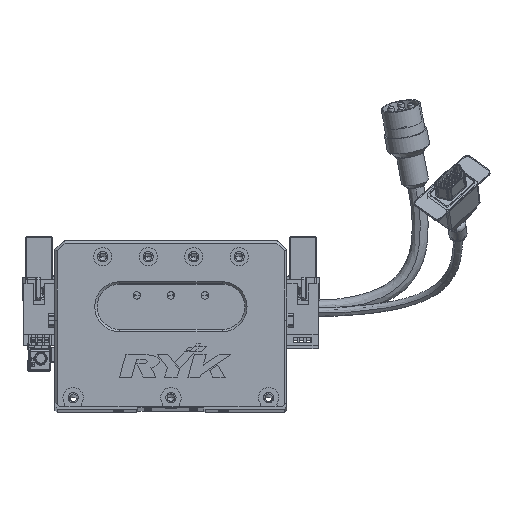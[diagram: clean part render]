
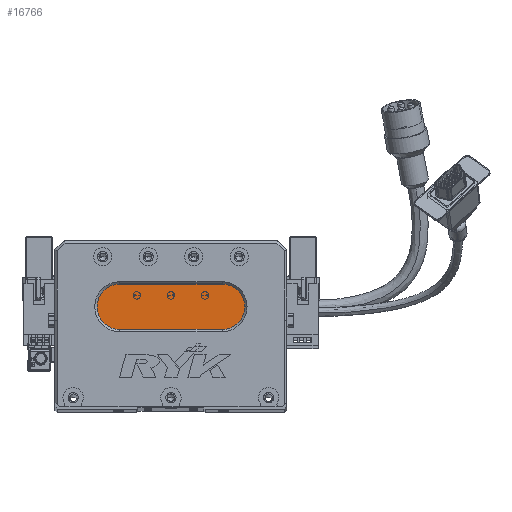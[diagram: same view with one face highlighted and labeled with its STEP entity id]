
A CAD part, top view. The second image highlights one B-rep face of the part: STEP entity #16766.
In plain terms, the highlighted planar face has unit normal (0, 0, 1) as drawn and (0, 0, -1) by its records, which use the part's own axes.
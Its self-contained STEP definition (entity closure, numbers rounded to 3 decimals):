
#6320 = EDGE_CURVE ( 'NONE', #55735, #10464, #32396, .T. ) ;
#8270 = CIRCLE ( 'NONE', #49269, 10. ) ;
#9917 = PLANE ( 'NONE',  #25021 ) ;
#10464 = VERTEX_POINT ( 'NONE', #63554 ) ;
#10763 = DIRECTION ( 'NONE',  ( 0., 0., -1. ) ) ;
#11523 = EDGE_CURVE ( 'NONE', #58689, #55735, #49590, .T. ) ;
#12877 = DIRECTION ( 'NONE',  ( 0., 0., -1. ) ) ;
#14082 = ORIENTED_EDGE ( 'NONE', *, *, #23002, .T. ) ;
#15048 = ORIENTED_EDGE ( 'NONE', *, *, #11523, .T. ) ;
#15908 = DIRECTION ( 'NONE',  ( -1., 0., 0. ) ) ;
#16712 = ORIENTED_EDGE ( 'NONE', *, *, #6320, .T. ) ;
#16766 = ADVANCED_FACE ( 'NONE', ( #61239 ), #9917, .T. ) ;
#18839 = DIRECTION ( 'NONE',  ( -1., 0., 0. ) ) ;
#23002 = EDGE_CURVE ( 'NONE', #10464, #66906, #8270, .T. ) ;
#24575 = CARTESIAN_POINT ( 'NONE',  ( 28.5, 54., 13. ) ) ;
#25021 = AXIS2_PLACEMENT_3D ( 'NONE', #56728, #57839, #53046 ) ;
#25952 = DIRECTION ( 'NONE',  ( -1., 0., 0. ) ) ;
#28492 = CARTESIAN_POINT ( 'NONE',  ( 73.5, 44., 13. ) ) ;
#30150 = CARTESIAN_POINT ( 'NONE',  ( 73.5, 54., 13. ) ) ;
#31560 = CARTESIAN_POINT ( 'NONE',  ( 28.5, 44., 13. ) ) ;
#32396 = LINE ( 'NONE', #36158, #39679 ) ;
#32907 = VERTEX_POINT ( 'NONE', #24575 ) ;
#34467 = EDGE_LOOP ( 'NONE', ( #15048, #16712, #14082, #47081, #44637 ) ) ;
#35617 = CARTESIAN_POINT ( 'NONE',  ( 18.5, 44., 13. ) ) ;
#36158 = CARTESIAN_POINT ( 'NONE',  ( 73.5, 34., 13. ) ) ;
#36377 = CARTESIAN_POINT ( 'NONE',  ( 73.5, 54., 13. ) ) ;
#39679 = VECTOR ( 'NONE', #25952, 1000. ) ;
#41810 = DIRECTION ( 'NONE',  ( 1., 0., 0. ) ) ;
#44637 = ORIENTED_EDGE ( 'NONE', *, *, #54016, .T. ) ;
#47081 = ORIENTED_EDGE ( 'NONE', *, *, #58882, .T. ) ;
#48801 = LINE ( 'NONE', #36377, #63444 ) ;
#48811 = DIRECTION ( 'NONE',  ( -1., 0., 0. ) ) ;
#49269 = AXIS2_PLACEMENT_3D ( 'NONE', #31560, #10763, #15908 ) ;
#49590 = CIRCLE ( 'NONE', #65101, 10. ) ;
#50075 = CARTESIAN_POINT ( 'NONE',  ( 28.5, 44., 13. ) ) ;
#52550 = CARTESIAN_POINT ( 'NONE',  ( 73.5, 34., 13. ) ) ;
#53046 = DIRECTION ( 'NONE',  ( -1., 0., 0. ) ) ;
#54016 = EDGE_CURVE ( 'NONE', #32907, #58689, #48801, .T. ) ;
#55735 = VERTEX_POINT ( 'NONE', #52550 ) ;
#56009 = AXIS2_PLACEMENT_3D ( 'NONE', #50075, #60317, #18839 ) ;
#56728 = CARTESIAN_POINT ( 'NONE',  ( 73.5, 44., 13. ) ) ;
#57839 = DIRECTION ( 'NONE',  ( 0., 0., -1. ) ) ;
#58689 = VERTEX_POINT ( 'NONE', #30150 ) ;
#58882 = EDGE_CURVE ( 'NONE', #66906, #32907, #64804, .T. ) ;
#60317 = DIRECTION ( 'NONE',  ( 0., 0., -1. ) ) ;
#61239 = FACE_OUTER_BOUND ( 'NONE', #34467, .T. ) ;
#63444 = VECTOR ( 'NONE', #41810, 1000. ) ;
#63554 = CARTESIAN_POINT ( 'NONE',  ( 28.5, 34., 13. ) ) ;
#64804 = CIRCLE ( 'NONE', #56009, 10. ) ;
#65101 = AXIS2_PLACEMENT_3D ( 'NONE', #28492, #12877, #48811 ) ;
#66906 = VERTEX_POINT ( 'NONE', #35617 ) ;
